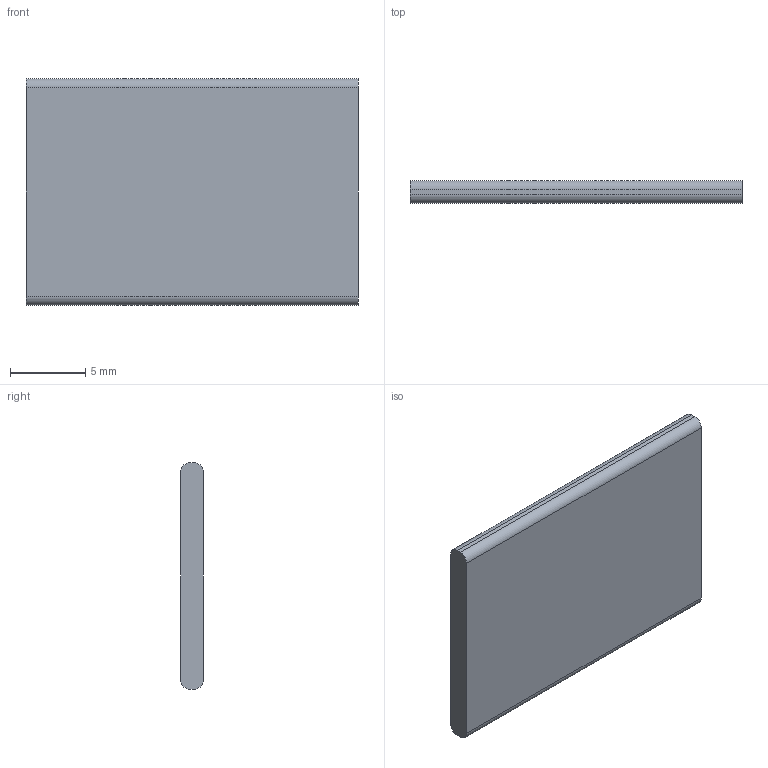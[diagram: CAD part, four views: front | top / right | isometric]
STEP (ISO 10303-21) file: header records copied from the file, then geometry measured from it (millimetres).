
FILE_DESCRIPTION(('Open CASCADE Model'),'2;1');
FILE_NAME('Open CASCADE Shape Model','2026-10-17T16:45:07',('Author'),( 'Open CASCADE'),'Open CASCADE STEP processor 8.0','build123d', 'Unknown');
FILE_SCHEMA(('AUTOMOTIVE_DESIGN { 1 0 10303 214 1 1 1 1 }'));
Length unit declared in the file: millimetre
Products named in the file (2): =>[0:1:1:2]; COMPOUND
Assembly tree (1 placements, depth 2):
  =>[0:1:1:2]
    COMPOUND
Bounding box: 22 x 1.5 x 15 mm (x, y, z)
Volume: 488.2 mm3; surface area: 747.7 mm2
Topology: 1 solids, 1 shells, 10 faces, 24 edges, 16 vertices
Faces by surface type: plane 6, cylinder 4
Entity records: 648 total; most frequent: CARTESIAN_POINT 124, DIRECTION 100, LINE 56, VECTOR 56, ORIENTED_EDGE 48, PCURVE 48, DEFINITIONAL_REPRESENTATION 48, EDGE_CURVE 24
